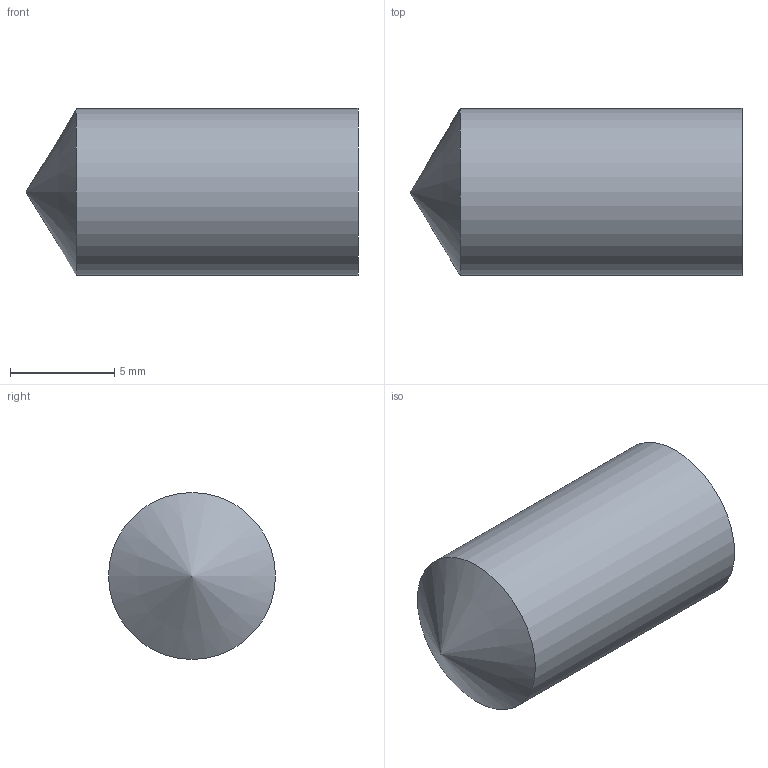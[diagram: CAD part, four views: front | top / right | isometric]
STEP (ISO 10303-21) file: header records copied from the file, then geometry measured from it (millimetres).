
FILE_DESCRIPTION(/* description */ (''),/* implementation_level */ '2;1');
FILE_NAME(/* name */ 'C:\Users\matthiask.LAMELLONET\Desktop\Bohrung_D8x13_5.stp',/* time_stamp */ '2021-07-09T09:04:45+02:00',/* author */ ('matthiask'),/* organization */ (''),/* preprocessor_version */ 'ST-DEVELOPER v18',/* originating_system */ 'Autodesk Inventor 2020',/* authorisation */ '');
FILE_SCHEMA (('AUTOMOTIVE_DESIGN { 1 0 10303 214 3 1 1 }'));
Length unit declared in the file: millimetre
Products named in the file (1): Bohrung D8x13.5
Bounding box: 15.9 x 8 x 8 mm (x, y, z)
Volume: 718.9 mm3; surface area: 448.2 mm2
Topology: 1 solids, 1 shells, 3 faces, 7 edges, 5 vertices
Faces by surface type: cylinder 1, plane 1, cone 1
Full cylindrical faces by diameter (mm): 8 x1
Entity records: 129 total; most frequent: DIRECTION 18, CARTESIAN_POINT 15, ORIENTED_EDGE 12, AXIS2_PLACEMENT_3D 8, EDGE_CURVE 6, VERTEX_POINT 5, CIRCLE 4, FACE_OUTER_BOUND 3
